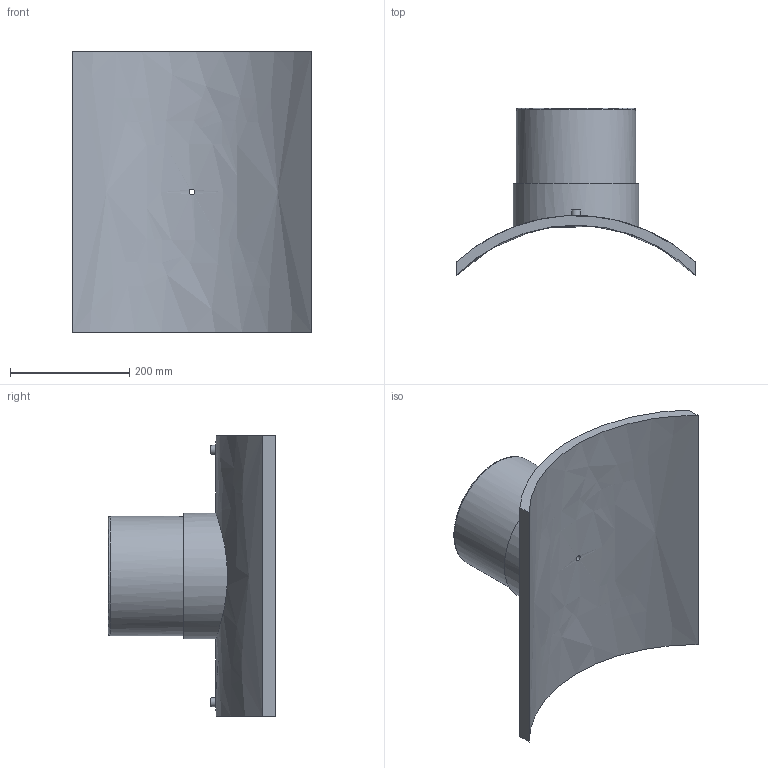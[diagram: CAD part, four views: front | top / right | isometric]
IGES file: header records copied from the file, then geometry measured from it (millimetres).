
Global section: file name: 495803560200T; native system: Autodesk Inventor 2019; preprocessor: unknown; author: KIM; date: 20240404.115238; units: millimetre
Bounding box: 400 x 280.04 x 470 mm (x, y, z)
Volume: 5655400.2 mm3; surface area: 673096.5 mm2
Topology: 1 solids, 1 shells, 29 faces, 60 edges, 43 vertices
Faces by surface type: bspline 29
